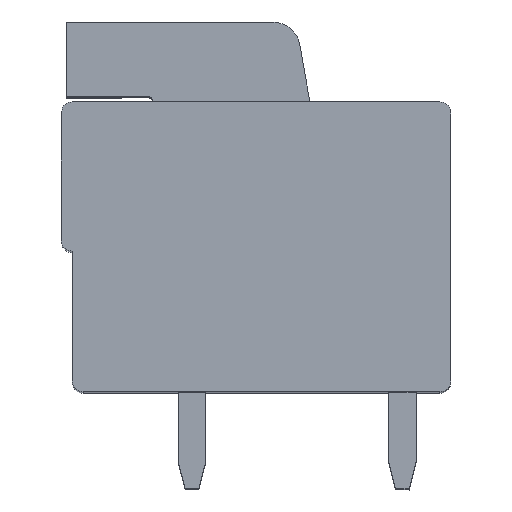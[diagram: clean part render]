
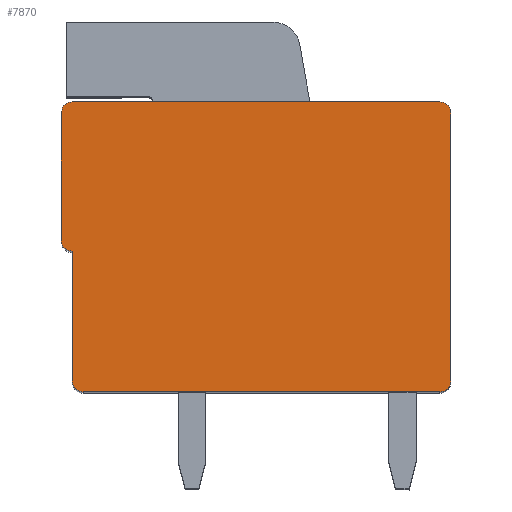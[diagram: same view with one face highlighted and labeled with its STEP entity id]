
A CAD part, top view. The second image highlights one B-rep face of the part: STEP entity #7870.
In plain terms, the highlighted planar face has unit normal (0, 0, 1).
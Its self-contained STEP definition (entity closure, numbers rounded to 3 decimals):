
#1061=DIRECTION('',(-1.,0.,0.));
#1062=VECTOR('',#1061,13.304);
#1063=CARTESIAN_POINT('',(13.702,14.,0.));
#1064=LINE('',#1063,#1062);
#2282=DIRECTION('',(0.,-1.,0.));
#2283=VECTOR('',#2282,4.607);
#2284=CARTESIAN_POINT('',(0.002,13.603,0.));
#2285=LINE('',#2284,#2283);
#2408=DIRECTION('',(0.,-1.,0.));
#2409=VECTOR('',#2408,4.698);
#2410=CARTESIAN_POINT('',(0.4,8.6,0.));
#2411=LINE('',#2410,#2409);
#2497=CARTESIAN_POINT('',(13.702,13.6,0.));
#2498=DIRECTION('',(0.,0.,-1.));
#2499=DIRECTION('',(0.,1.,0.));
#2500=AXIS2_PLACEMENT_3D('',#2497,#2498,#2499);
#2502=DIRECTION('',(0.,-1.,0.));
#2503=VECTOR('',#2502,9.7);
#2504=CARTESIAN_POINT('',(14.102,13.6,0.));
#2505=LINE('',#2504,#2503);
#2506=CARTESIAN_POINT('',(13.702,3.9,0.));
#2507=DIRECTION('',(0.,0.,-1.));
#2508=DIRECTION('',(1.,0.,0.));
#2509=AXIS2_PLACEMENT_3D('',#2506,#2507,#2508);
#2511=DIRECTION('',(-1.,0.,0.));
#2512=VECTOR('',#2511,12.902);
#2513=CARTESIAN_POINT('',(13.702,3.5,0.));
#2514=LINE('',#2513,#2512);
#2515=CARTESIAN_POINT('',(0.8,3.9,0.));
#2516=DIRECTION('',(0.,0.,-1.));
#2517=DIRECTION('',(0.001,-1.,0.));
#2518=AXIS2_PLACEMENT_3D('',#2515,#2516,#2517);
#2520=CARTESIAN_POINT('',(0.4,9.,0.));
#2521=DIRECTION('',(0.,0.,-1.));
#2522=DIRECTION('',(-0.001,-1.,0.));
#2523=AXIS2_PLACEMENT_3D('',#2520,#2521,#2522);
#2525=CARTESIAN_POINT('',(0.398,13.604,0.));
#2526=DIRECTION('',(0.,0.,-1.));
#2527=DIRECTION('',(-1.,-0.003,0.));
#2528=AXIS2_PLACEMENT_3D('',#2525,#2526,#2527);
#3306=CARTESIAN_POINT('',(0.8,3.5,0.));
#3308=VERTEX_POINT('',#3306);
#3310=CARTESIAN_POINT('',(13.702,14.,0.));
#3311=CARTESIAN_POINT('',(14.102,13.6,0.));
#3312=VERTEX_POINT('',#3310);
#3313=VERTEX_POINT('',#3311);
#3314=CARTESIAN_POINT('',(14.102,3.9,0.));
#3315=VERTEX_POINT('',#3314);
#3316=CARTESIAN_POINT('',(13.702,3.5,0.));
#3317=VERTEX_POINT('',#3316);
#3318=CARTESIAN_POINT('',(0.4,3.902,0.));
#3319=VERTEX_POINT('',#3318);
#3320=CARTESIAN_POINT('',(0.4,8.6,0.));
#3321=VERTEX_POINT('',#3320);
#3322=CARTESIAN_POINT('',(0.,8.996,0.));
#3323=VERTEX_POINT('',#3322);
#3324=CARTESIAN_POINT('',(0.002,13.603,0.));
#3325=VERTEX_POINT('',#3324);
#3326=CARTESIAN_POINT('',(0.398,14.,0.));
#3327=VERTEX_POINT('',#3326);
#7853=CARTESIAN_POINT('',(7.051,8.75,0.));
#7854=DIRECTION('',(0.,0.,1.));
#7855=DIRECTION('',(1.,0.,0.));
#7856=AXIS2_PLACEMENT_3D('',#7853,#7854,#7855);
#7857=PLANE('',#7856);
#7858=ORIENTED_EDGE('',*,*,#5831,.T.);
#7859=ORIENTED_EDGE('',*,*,#5801,.T.);
#7860=ORIENTED_EDGE('',*,*,#5771,.T.);
#7861=ORIENTED_EDGE('',*,*,#4488,.T.);
#7862=ORIENTED_EDGE('',*,*,#7815,.T.);
#7863=ORIENTED_EDGE('',*,*,#7785,.F.);
#7864=ORIENTED_EDGE('',*,*,#7764,.T.);
#7865=ORIENTED_EDGE('',*,*,#7616,.F.);
#7866=ORIENTED_EDGE('',*,*,#7583,.T.);
#7867=ORIENTED_EDGE('',*,*,#5861,.F.);
#7868=EDGE_LOOP('',(#7858,#7859,#7860,#7861,#7862,#7863,#7864,#7865,#7866,
#7867));
#7869=FACE_OUTER_BOUND('',#7868,.F.);
#2501=CIRCLE('',#2500,0.4);
#2510=CIRCLE('',#2509,0.4);
#2519=CIRCLE('',#2518,0.4);
#2524=CIRCLE('',#2523,0.4);
#2529=CIRCLE('',#2528,0.396);
#4488=EDGE_CURVE('',#3317,#3308,#2514,.T.);
#5771=EDGE_CURVE('',#3315,#3317,#2510,.T.);
#5801=EDGE_CURVE('',#3313,#3315,#2505,.T.);
#5831=EDGE_CURVE('',#3312,#3313,#2501,.T.);
#5861=EDGE_CURVE('',#3312,#3327,#1064,.T.);
#7583=EDGE_CURVE('',#3325,#3327,#2529,.T.);
#7616=EDGE_CURVE('',#3325,#3323,#2285,.T.);
#7764=EDGE_CURVE('',#3321,#3323,#2524,.T.);
#7785=EDGE_CURVE('',#3321,#3319,#2411,.T.);
#7815=EDGE_CURVE('',#3308,#3319,#2519,.T.);
#7870=ADVANCED_FACE('',(#7869),#7857,.T.);
